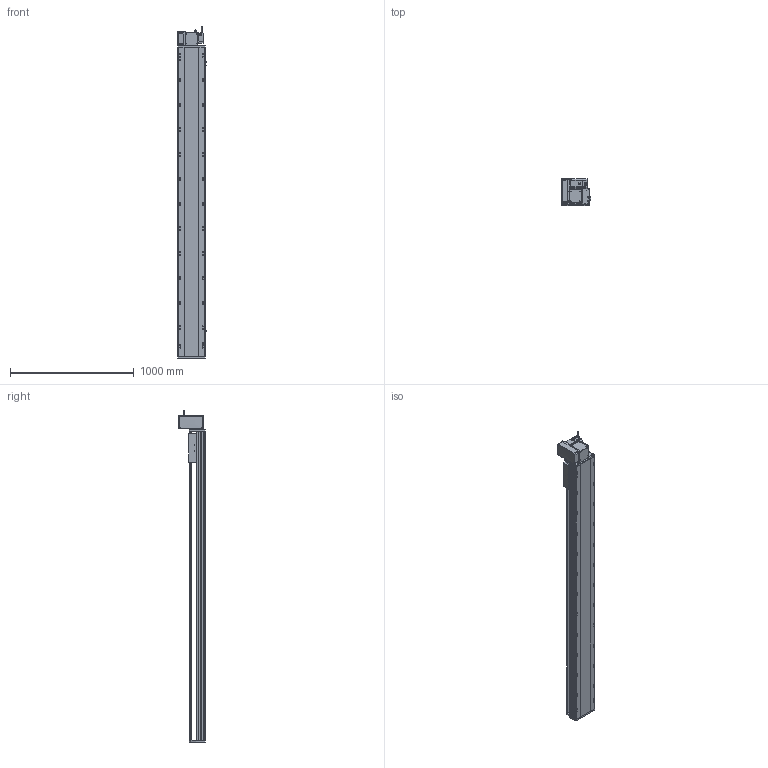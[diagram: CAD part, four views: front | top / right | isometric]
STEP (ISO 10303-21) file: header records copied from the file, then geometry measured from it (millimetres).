
FILE_DESCRIPTION (( 'STEP AP214' ), '1' );
FILE_NAME ('RTB22S-XX-2150-LW-M75-C4.STEP', '2025-12-12T06:01:51', ( '' ), ( '' ), 'SwSTEP 2.0', 'SolidWorks 2018', '' );
FILE_SCHEMA (( 'AUTOMOTIVE_DESIGN' ));
Length unit declared in the file: millimetre
Products named in the file (14): RTB22S-GY-007奻裔^RTB22S-XX-XX-LW-M75-C4; RTB22S-GY-005P^RTB22S-LW-々湍釱蚾饜_RTB22S-XX-XX-LW-M75-C4; RTB22S-GY-018P^RTB22S-LW-々湍釱蚾饜_RTB22S-XX-XX-LW-M75-C4; RTB22S-GY-014--々湍釱^RTB22S-LW-々湍釱蚾饜_RTB22S-XX-XX-LW-M75-C4; RTH22-GY-013外置感应片^RTB22S-XX-XX-LW-M75-C4; RTB22S-GY-017P^RTB22S-LW-々湍釱蚾饜_RTB22S-XX-XX-LW-M75-C4; OMRON EE-SX672 传感器^RTB22S-XX-XX-LW-M75-C4; RTB22S-L-004賑釱^RTB22S-XX-XX-LW-M75-C4; RTB22S-LW-々湍釱蚾饜^RTB22S-XX-XX-LW-M75-C4; RTB22S-GY-008-M75--萇儂啣^RTB22S-LW-々湍釱蚾饜_RTB22S-XX-XX-LW-M75-C4; 750W萇儂^RTB22S-XX-XX-LW-M75-C4; RTB22S-XX-2150-LW-M75-C4; RTB22S-GY-001耜裔^RTB22S-XX-XX-LW-M75-C4; RTB22S-L-011菁釱^RTB22S-XX-XX-LW-M75-C4
Assembly tree (16 placements, depth 3):
  RTB22S-XX-2150-LW-M75-C4
    RTB22S-L-011菁釱^RTB22S-XX-XX-LW-M75-C4
    RTB22S-GY-001耜裔^RTB22S-XX-XX-LW-M75-C4
    750W萇儂^RTB22S-XX-XX-LW-M75-C4
    RTB22S-GY-007奻裔^RTB22S-XX-XX-LW-M75-C4
    RTB22S-L-004賑釱^RTB22S-XX-XX-LW-M75-C4
    RTH22-GY-013外置感应片^RTB22S-XX-XX-LW-M75-C4
    OMRON EE-SX672 传感器^RTB22S-XX-XX-LW-M75-C4  x3
    RTB22S-LW-々湍釱蚾饜^RTB22S-XX-XX-LW-M75-C4
      RTB22S-GY-014--々湍釱^RTB22S-LW-々湍釱蚾饜_RTB22S-XX-XX-LW-M75-C4
      RTB22S-GY-017P^RTB22S-LW-々湍釱蚾饜_RTB22S-XX-XX-LW-M75-C4  x2
      RTB22S-GY-005P^RTB22S-LW-々湍釱蚾饜_RTB22S-XX-XX-LW-M75-C4
      RTB22S-GY-008-M75--萇儂啣^RTB22S-LW-々湍釱蚾饜_RTB22S-XX-XX-LW-M75-C4
      RTB22S-GY-018P^RTB22S-LW-々湍釱蚾饜_RTB22S-XX-XX-LW-M75-C4
Bounding box: 238.5 x 215.5 x 2682.2 mm (x, y, z)
Volume: 34687819.2 mm3; surface area: 3555717 mm2
Topology: 15 solids, 15 shells, 2073 faces, 5636 edges, 3602 vertices
Faces by surface type: plane 925, cylinder 682, bspline 296, cone 158, sphere 8, torus 4
Entity records: 56058 total; most frequent: CARTESIAN_POINT 15912, ORIENTED_EDGE 8020, DIRECTION 7804, EDGE_CURVE 4010, AXIS2_PLACEMENT_3D 2786, VERTEX_POINT 2606, VECTOR 2232, LINE 2232
